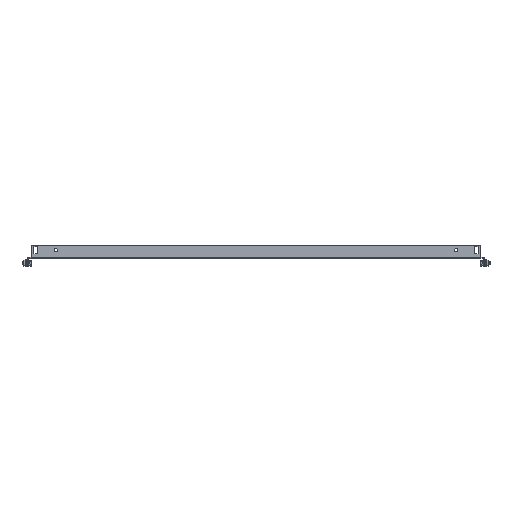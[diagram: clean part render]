
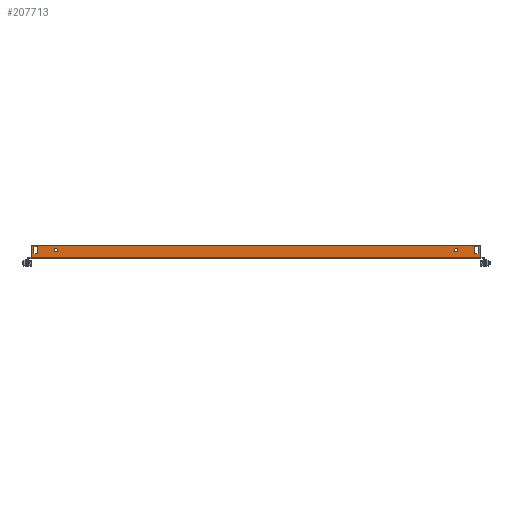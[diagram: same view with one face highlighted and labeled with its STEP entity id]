
A CAD part, front view. The second image highlights one B-rep face of the part: STEP entity #207713.
In plain terms, the highlighted planar face has unit normal (0, -1, 0).
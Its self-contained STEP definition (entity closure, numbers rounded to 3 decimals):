
#190830 = VERTEX_POINT('',#190831);
#190831 = CARTESIAN_POINT('',(442.,-434.5,0.));
#190837 = EDGE_CURVE('',#190838,#190830,#190840,.T.);
#190838 = VERTEX_POINT('',#190839);
#190839 = CARTESIAN_POINT('',(-442.,-434.5,0.));
#190840 = LINE('',#190841,#190842);
#190841 = CARTESIAN_POINT('',(-442.,-434.5,0.));
#190842 = VECTOR('',#190843,1.);
#190843 = DIRECTION('',(1.,-0.,-0.));
#207592 = VERTEX_POINT('',#207593);
#207593 = CARTESIAN_POINT('',(-442.,-434.5,2.6));
#207608 = EDGE_CURVE('',#207592,#190838,#207609,.T.);
#207609 = LINE('',#207610,#207611);
#207610 = CARTESIAN_POINT('',(-442.,-434.5,2.6));
#207611 = VECTOR('',#207612,1.);
#207612 = DIRECTION('',(0.,0.,-1.));
#207632 = VERTEX_POINT('',#207633);
#207633 = CARTESIAN_POINT('',(442.,-434.5,2.6));
#207639 = EDGE_CURVE('',#207632,#190830,#207640,.T.);
#207640 = LINE('',#207641,#207642);
#207641 = CARTESIAN_POINT('',(442.,-434.5,2.));
#207642 = VECTOR('',#207643,1.);
#207643 = DIRECTION('',(-0.,0.,-1.));
#207665 = VERTEX_POINT('',#207666);
#207666 = CARTESIAN_POINT('',(442.,-434.5,26.));
#207672 = EDGE_CURVE('',#207632,#207665,#207673,.T.);
#207673 = LINE('',#207674,#207675);
#207674 = CARTESIAN_POINT('',(442.,-434.5,26.));
#207675 = VECTOR('',#207676,1.);
#207676 = DIRECTION('',(-0.,0.,1.));
#207687 = EDGE_CURVE('',#207688,#207592,#207690,.T.);
#207688 = VERTEX_POINT('',#207689);
#207689 = CARTESIAN_POINT('',(-442.,-434.5,26.));
#207690 = LINE('',#207691,#207692);
#207691 = CARTESIAN_POINT('',(-442.,-434.5,2.));
#207692 = VECTOR('',#207693,1.);
#207693 = DIRECTION('',(-0.,0.,-1.));
#207713 = ADVANCED_FACE('',(#207714,#207748,#207759,#207770,#207804),
  #207817,.F.);
#207714 = FACE_BOUND('',#207715,.T.);
#207715 = EDGE_LOOP('',(#207716,#207726,#207734,#207742));
#207716 = ORIENTED_EDGE('',*,*,#207717,.F.);
#207717 = EDGE_CURVE('',#207718,#207720,#207722,.T.);
#207718 = VERTEX_POINT('',#207719);
#207719 = CARTESIAN_POINT('',(436.5,-434.5,9.));
#207720 = VERTEX_POINT('',#207721);
#207721 = CARTESIAN_POINT('',(436.5,-434.5,23.));
#207722 = LINE('',#207723,#207724);
#207723 = CARTESIAN_POINT('',(436.5,-434.5,23.));
#207724 = VECTOR('',#207725,1.);
#207725 = DIRECTION('',(-0.,-0.,1.));
#207726 = ORIENTED_EDGE('',*,*,#207727,.F.);
#207727 = EDGE_CURVE('',#207728,#207718,#207730,.T.);
#207728 = VERTEX_POINT('',#207729);
#207729 = CARTESIAN_POINT('',(429.5,-434.5,9.));
#207730 = LINE('',#207731,#207732);
#207731 = CARTESIAN_POINT('',(436.5,-434.5,9.));
#207732 = VECTOR('',#207733,1.);
#207733 = DIRECTION('',(1.,-0.,-0.));
#207734 = ORIENTED_EDGE('',*,*,#207735,.F.);
#207735 = EDGE_CURVE('',#207736,#207728,#207738,.T.);
#207736 = VERTEX_POINT('',#207737);
#207737 = CARTESIAN_POINT('',(429.5,-434.5,23.));
#207738 = LINE('',#207739,#207740);
#207739 = CARTESIAN_POINT('',(429.5,-434.5,9.));
#207740 = VECTOR('',#207741,1.);
#207741 = DIRECTION('',(-0.,-0.,-1.));
#207742 = ORIENTED_EDGE('',*,*,#207743,.F.);
#207743 = EDGE_CURVE('',#207720,#207736,#207744,.T.);
#207744 = LINE('',#207745,#207746);
#207745 = CARTESIAN_POINT('',(429.5,-434.5,23.));
#207746 = VECTOR('',#207747,1.);
#207747 = DIRECTION('',(-1.,-0.,-0.));
#207748 = FACE_BOUND('',#207749,.T.);
#207749 = EDGE_LOOP('',(#207750));
#207750 = ORIENTED_EDGE('',*,*,#207751,.F.);
#207751 = EDGE_CURVE('',#207752,#207752,#207754,.T.);
#207752 = VERTEX_POINT('',#207753);
#207753 = CARTESIAN_POINT('',(393.5,-434.5,19.5));
#207754 = CIRCLE('',#207755,3.5);
#207755 = AXIS2_PLACEMENT_3D('',#207756,#207757,#207758);
#207756 = CARTESIAN_POINT('',(393.5,-434.5,16.));
#207757 = DIRECTION('',(0.,-1.,0.));
#207758 = DIRECTION('',(0.,0.,1.));
#207759 = FACE_BOUND('',#207760,.T.);
#207760 = EDGE_LOOP('',(#207761));
#207761 = ORIENTED_EDGE('',*,*,#207762,.F.);
#207762 = EDGE_CURVE('',#207763,#207763,#207765,.T.);
#207763 = VERTEX_POINT('',#207764);
#207764 = CARTESIAN_POINT('',(-393.5,-434.5,12.5));
#207765 = CIRCLE('',#207766,3.5);
#207766 = AXIS2_PLACEMENT_3D('',#207767,#207768,#207769);
#207767 = CARTESIAN_POINT('',(-393.5,-434.5,16.));
#207768 = DIRECTION('',(0.,-1.,0.));
#207769 = DIRECTION('',(0.,0.,-1.));
#207770 = FACE_BOUND('',#207771,.T.);
#207771 = EDGE_LOOP('',(#207772,#207782,#207790,#207798));
#207772 = ORIENTED_EDGE('',*,*,#207773,.F.);
#207773 = EDGE_CURVE('',#207774,#207776,#207778,.T.);
#207774 = VERTEX_POINT('',#207775);
#207775 = CARTESIAN_POINT('',(-436.5,-434.5,23.));
#207776 = VERTEX_POINT('',#207777);
#207777 = CARTESIAN_POINT('',(-436.5,-434.5,9.));
#207778 = LINE('',#207779,#207780);
#207779 = CARTESIAN_POINT('',(-436.5,-434.5,9.));
#207780 = VECTOR('',#207781,1.);
#207781 = DIRECTION('',(-0.,-0.,-1.));
#207782 = ORIENTED_EDGE('',*,*,#207783,.F.);
#207783 = EDGE_CURVE('',#207784,#207774,#207786,.T.);
#207784 = VERTEX_POINT('',#207785);
#207785 = CARTESIAN_POINT('',(-429.5,-434.5,23.));
#207786 = LINE('',#207787,#207788);
#207787 = CARTESIAN_POINT('',(-436.5,-434.5,23.));
#207788 = VECTOR('',#207789,1.);
#207789 = DIRECTION('',(-1.,-0.,-0.));
#207790 = ORIENTED_EDGE('',*,*,#207791,.F.);
#207791 = EDGE_CURVE('',#207792,#207784,#207794,.T.);
#207792 = VERTEX_POINT('',#207793);
#207793 = CARTESIAN_POINT('',(-429.5,-434.5,9.));
#207794 = LINE('',#207795,#207796);
#207795 = CARTESIAN_POINT('',(-429.5,-434.5,23.));
#207796 = VECTOR('',#207797,1.);
#207797 = DIRECTION('',(-0.,-0.,1.));
#207798 = ORIENTED_EDGE('',*,*,#207799,.F.);
#207799 = EDGE_CURVE('',#207776,#207792,#207800,.T.);
#207800 = LINE('',#207801,#207802);
#207801 = CARTESIAN_POINT('',(-429.5,-434.5,9.));
#207802 = VECTOR('',#207803,1.);
#207803 = DIRECTION('',(1.,-0.,-0.));
#207804 = FACE_BOUND('',#207805,.T.);
#207805 = EDGE_LOOP('',(#207806,#207807,#207808,#207809,#207810,#207811)
  );
#207806 = ORIENTED_EDGE('',*,*,#207687,.T.);
#207807 = ORIENTED_EDGE('',*,*,#207608,.T.);
#207808 = ORIENTED_EDGE('',*,*,#190837,.T.);
#207809 = ORIENTED_EDGE('',*,*,#207639,.F.);
#207810 = ORIENTED_EDGE('',*,*,#207672,.T.);
#207811 = ORIENTED_EDGE('',*,*,#207812,.T.);
#207812 = EDGE_CURVE('',#207665,#207688,#207813,.T.);
#207813 = LINE('',#207814,#207815);
#207814 = CARTESIAN_POINT('',(-442.,-434.5,26.));
#207815 = VECTOR('',#207816,1.);
#207816 = DIRECTION('',(-1.,-0.,-0.));
#207817 = PLANE('',#207818);
#207818 = AXIS2_PLACEMENT_3D('',#207819,#207820,#207821);
#207819 = CARTESIAN_POINT('',(442.,-434.5,2.));
#207820 = DIRECTION('',(-0.,1.,0.));
#207821 = DIRECTION('',(0.,0.,1.));
